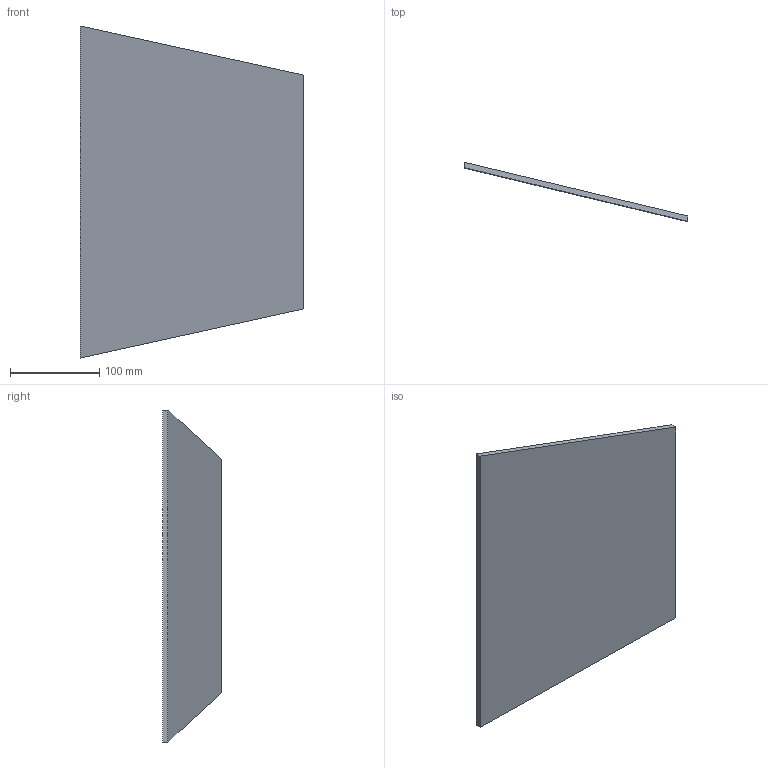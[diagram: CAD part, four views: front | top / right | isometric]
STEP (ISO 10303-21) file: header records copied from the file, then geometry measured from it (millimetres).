
FILE_DESCRIPTION(('Open CASCADE Model'),'2;1');
FILE_NAME('Open CASCADE Shape Model','2026-10-16T18:03:45',('Author'),( 'Open CASCADE'),'Open CASCADE STEP processor 7.8','Open CASCADE 7.8' ,'Unknown');
FILE_SCHEMA(('AUTOMOTIVE_DESIGN { 1 0 10303 214 1 1 1 1 }'));
Length unit declared in the file: millimetre
Products named in the file (1): Open CASCADE STEP translator 7.8 11
Bounding box: 250 x 66 x 372 mm (x, y, z)
Volume: 475500 mm3; surface area: 169876.6 mm2
Topology: 1 solids, 1 shells, 6 faces, 12 edges, 8 vertices
Faces by surface type: plane 6
Entity records: 322 total; most frequent: CARTESIAN_POINT 51, DIRECTION 50, LINE 36, VECTOR 36, ORIENTED_EDGE 24, PCURVE 24, DEFINITIONAL_REPRESENTATION 24, EDGE_CURVE 12
